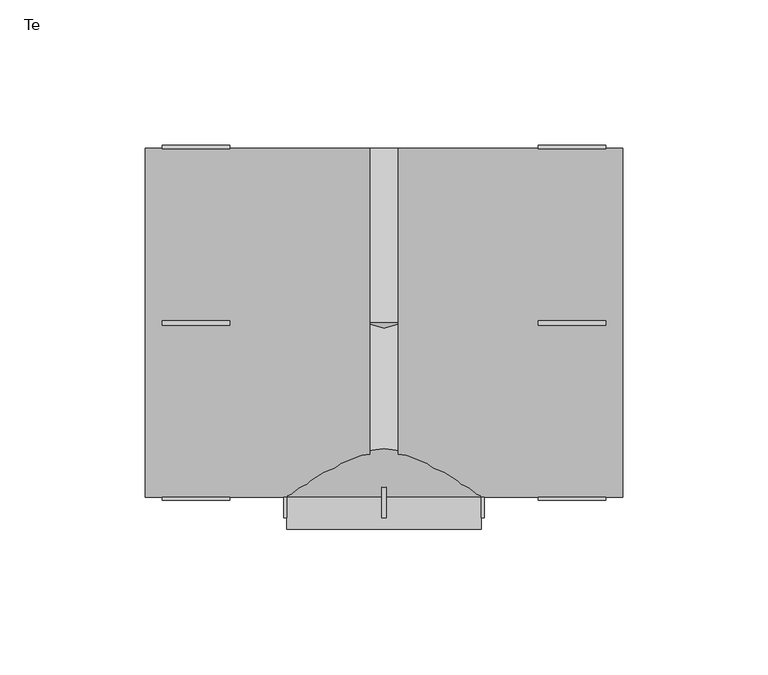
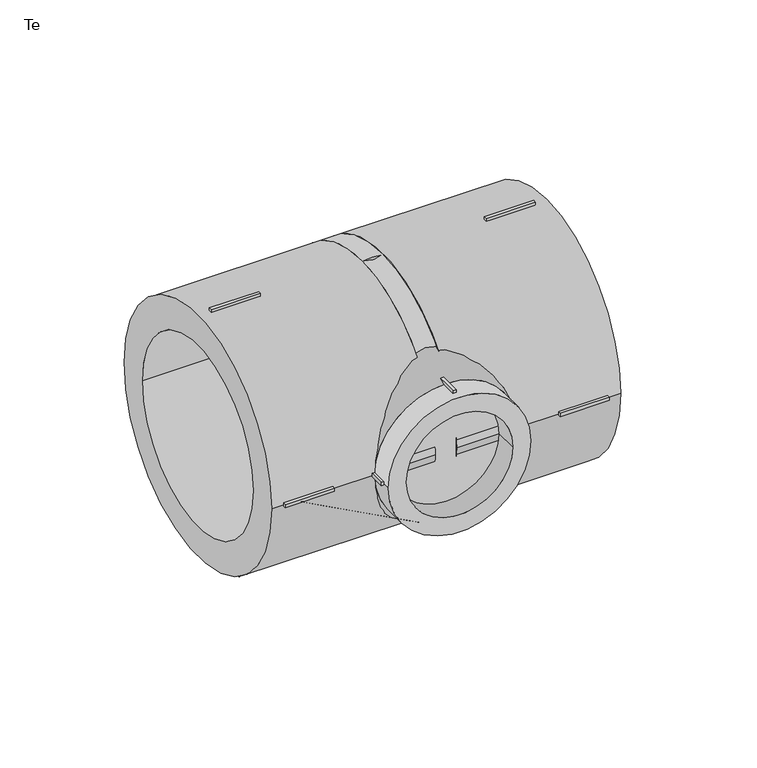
"""IFC4 building model written with IfcOpenShell, lengths in millimetres: pipe fitting geometry, EGB_VASEN_ PPR_Te WXR300_Te reducida WXR310 : Te."""

from ifc_helpers import new_model, si_unit, point, frame, origin, origin_2d, place, context, project, spatial, polyline, circle_curve, trimmed, segment, composite_curve, outline, extrude, source, transform, mapped, element, save
from ifc_brep_helpers import plane_surface, revolved_surface, advanced_brep


def te_9bad3824(model_context):
    return source(origin(), model_context, "Body", "SolidModel", [
        extrude(outline(polyline([(-0.75, -51.0), (0.75, -51.0), (0.75, -67.0), (-0.75, -67.0), (-0.75, -51.0)])), frame((0.0, 0.0, 32.5), z_axis=(0.0, 0.0, 1.0), x_axis=(1.0, 0.0, 0.0)), (0.0, 0.0, 1.0), 2.0),
        extrude(outline(polyline([(-0.75, -51.0), (0.75, -51.0), (0.75, -67.0), (-0.75, -67.0), (-0.75, -51.0)])), frame((0.0, 0.0, -34.5), z_axis=(0.0, 0.0, 1.0), x_axis=(1.0, 0.0, 0.0)), (0.0, 0.0, 1.0), 2.0),
        extrude(outline(polyline([(32.5, -51.0), (34.5, -51.0), (34.5, -67.0), (32.5, -67.0), (32.5, -51.0)])), frame((0.0, 0.0, -0.75), z_axis=(0.0, 0.0, 1.0), x_axis=(1.0, 0.0, 0.0)), (0.0, 0.0, 1.0), 1.5),
        extrude(outline(polyline([(-34.5, -51.0), (-32.5, -51.0), (-32.5, -67.0), (-34.5, -67.0), (-34.5, -51.0)])), frame((0.0, 0.0, -0.75), z_axis=(0.0, 0.0, 1.0), x_axis=(1.0, 0.0, 0.0)), (0.0, 0.0, 1.0), 1.5),
        extrude(outline(polyline([(53.0, -0.75), (53.0, 0.75), (76.2, 0.75), (76.2, -0.75), (53.0, -0.75)])), frame((0.0, 0.0, 59.0), z_axis=(0.0, 0.0, 1.0), x_axis=(1.0, 0.0, 0.0)), (0.0, 0.0, 1.0), 2.0),
        extrude(outline(polyline([(53.0, -0.75), (53.0, 0.75), (76.2, 0.75), (76.2, -0.75), (53.0, -0.75)])), frame((0.0, 0.0, -61.0), z_axis=(0.0, 0.0, 1.0), x_axis=(1.0, 0.0, 0.0)), (0.0, 0.0, 1.0), 2.0),
        extrude(outline(polyline([(53.0, 59.0), (53.0, 61.0), (76.2, 61.0), (76.2, 59.0), (53.0, 59.0)])), frame((0.0, 0.0, -0.75), z_axis=(0.0, 0.0, 1.0), x_axis=(1.0, 0.0, 0.0)), (0.0, 0.0, 1.0), 1.5),
        extrude(outline(polyline([(53.0, -61.0), (53.0, -59.0), (76.2, -59.0), (76.2, -61.0), (53.0, -61.0)])), frame((0.0, 0.0, -0.75), z_axis=(0.0, 0.0, 1.0), x_axis=(1.0, 0.0, 0.0)), (0.0, 0.0, 1.0), 1.5),
        extrude(outline(polyline([(-53.0, 0.75), (-53.0, -0.75), (-76.2, -0.75), (-76.2, 0.75), (-53.0, 0.75)])), frame((0.0, 0.0, 59.0), z_axis=(0.0, 0.0, 1.0), x_axis=(1.0, 0.0, 0.0)), (0.0, 0.0, 1.0), 2.0),
        extrude(outline(polyline([(-53.0, 0.75), (-53.0, -0.75), (-76.2, -0.75), (-76.2, 0.75), (-53.0, 0.75)])), frame((0.0, 0.0, -61.0), z_axis=(0.0, 0.0, 1.0), x_axis=(1.0, 0.0, 0.0)), (0.0, 0.0, 1.0), 2.0),
        extrude(outline(polyline([(-53.0, 61.0), (-53.0, 59.0), (-76.2, 59.0), (-76.2, 61.0), (-53.0, 61.0)])), frame((0.0, 0.0, -0.75), z_axis=(0.0, 0.0, 1.0), x_axis=(1.0, 0.0, 0.0)), (0.0, 0.0, 1.0), 1.5),
        extrude(outline(polyline([(-53.0, -59.0), (-53.0, -61.0), (-76.2, -61.0), (-76.2, -59.0), (-53.0, -59.0)])), frame((0.0, 0.0, -0.75), z_axis=(0.0, 0.0, 1.0), x_axis=(1.0, 0.0, 0.0)), (0.0, 0.0, 1.0), 1.5),
        extrude(outline(composite_curve([segment(trimmed(circle_curve(origin_2d(), 33.5), [point((0.0, 33.5))], [point((0.0, -33.5))], False, "CARTESIAN"), True, "CONTINUOUS"), segment(trimmed(circle_curve(origin_2d(), 33.5), [point((0.0, -33.5))], [point((0.0, 33.5))], False, "CARTESIAN"), True, "CONTINUOUS")], self_intersect=False), holes=[composite_curve([segment(trimmed(circle_curve(origin_2d(), 25.0), [point((0.0, 25.0))], [point((0.0, -25.0))], True, "CARTESIAN"), True, "CONTINUOUS"), segment(trimmed(circle_curve(origin_2d(), 25.0), [point((0.0, -25.0))], [point((0.0, 25.0))], True, "CARTESIAN"), True, "CONTINUOUS")], self_intersect=False)]), frame((0.0, -71.0, 0.0), z_axis=(0.0, 1.0, 0.0), x_axis=(0.0, 0.0, 1.0)), (0.0, 0.0, 1.0), 11.0),
        extrude(outline(composite_curve([segment(trimmed(circle_curve(origin_2d(), 60.0), [point((-60.0, 0.0))], [point((60.0, 0.0))], False, "CARTESIAN"), True, "CONTINUOUS"), segment(trimmed(circle_curve(origin_2d(), 60.0), [point((60.0, 0.0))], [point((-60.0, 0.0))], False, "CARTESIAN"), True, "CONTINUOUS")], self_intersect=False), holes=[composite_curve([segment(trimmed(circle_curve(origin_2d(), 45.0), [point((-45.0, 0.0))], [point((45.0, 0.0))], True, "CARTESIAN"), True, "CONTINUOUS"), segment(trimmed(circle_curve(origin_2d(), 45.0), [point((45.0, 0.0))], [point((-45.0, 0.0))], True, "CARTESIAN"), True, "CONTINUOUS")], self_intersect=False)]), frame((4.96, 0.0, 0.0), z_axis=(1.0, 0.0, 0.0), x_axis=(0.0, 1.0, 0.0)), (0.0, 0.0, 1.0), 77.04),
        extrude(outline(composite_curve([segment(trimmed(circle_curve(origin_2d(), 60.0), [point((-60.0, 0.0))], [point((60.0, 0.0))], False, "CARTESIAN"), True, "CONTINUOUS"), segment(trimmed(circle_curve(origin_2d(), 60.0), [point((60.0, 0.0))], [point((-60.0, 0.0))], False, "CARTESIAN"), True, "CONTINUOUS")], self_intersect=False), holes=[composite_curve([segment(trimmed(circle_curve(origin_2d(), 45.0), [point((-45.0, 0.0))], [point((45.0, 0.0))], True, "CARTESIAN"), True, "CONTINUOUS"), segment(trimmed(circle_curve(origin_2d(), 45.0), [point((45.0, 0.0))], [point((-45.0, 0.0))], True, "CARTESIAN"), True, "CONTINUOUS")], self_intersect=False)]), frame((-82.0, 0.0, 0.0), z_axis=(1.0, 0.0, 0.0), x_axis=(0.0, 1.0, 0.0)), (0.0, 0.0, 1.0), 77.04),
        advanced_brep(
        [(60.0, 0.0, 0.0), (-60.0, 0.0, 0.0), (33.5, -60.0, 0.0), (-33.5, -60.0, 0.0)],
        [
            (0, 1, circle_curve(frame((0.0, 0.0, 0.0), z_axis=(0.0, 1.0, 0.0), x_axis=(1.0, 0.0, 0.0)), 60.0)),
            (1, 0, circle_curve(frame((0.0, 0.0, 0.0), z_axis=(0.0, 1.0, 0.0), x_axis=(-1.0, 0.0, 0.0)), 60.0)),
            (2, 3, circle_curve(frame((0.0, -60.0, 0.0), z_axis=(0.0, -1.0, 0.0), x_axis=(-1.0, 0.0, 0.0)), 33.5)),
            (3, 2, circle_curve(frame((0.0, -60.0, 0.0), z_axis=(0.0, -1.0, 0.0), x_axis=(1.0, 0.0, 0.0)), 33.5)),
            (3, 1),
            (0, 2),
        ],
        [
            plane_surface(frame((0.0, 0.0, 0.0), z_axis=(0.0, 1.0, 0.0), x_axis=(0.0, 0.0, -1.0))),
            plane_surface(frame((0.0, -60.0, 0.0), z_axis=(0.0, -1.0, 0.0), x_axis=(0.0, 0.0, -1.0))),
            revolved_surface(polyline([(-33.49999999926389, -60.0, 0.0), (-60.0, 0.0, 0.0)]), (0.0, -135.8490566, 0.0), (0.0, 1.0, 0.0)),
            revolved_surface(polyline([(33.49999999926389, -60.0, 0.0), (60.0, 0.0, 0.0)]), (0.0, -135.8490566, 0.0), (0.0, 1.0, 0.0)),
        ],
        [
            (0, [[1, 2]]),
            (1, [[3, 4]]),
            (2, [[-4, 5, -1, 6]]),
            (3, [[-3, -6, -2, -5]]),
        ],
    ),
        extrude(outline(composite_curve([segment(trimmed(circle_curve(origin_2d(), 60.0), [point((-60.0, 0.0))], [point((60.0, 0.0))], False, "CARTESIAN"), True, "CONTINUOUS"), segment(trimmed(circle_curve(origin_2d(), 60.0), [point((60.0, 0.0))], [point((-60.0, 0.0))], False, "CARTESIAN"), True, "CONTINUOUS")], self_intersect=False)), frame((-4.96, 0.0, 0.0), z_axis=(1.0, 0.0, 0.0), x_axis=(0.0, 1.0, 0.0)), (0.0, 0.0, 1.0), 9.92),
    ])


if __name__ == "__main__":
    model = new_model("IFC4")
    model_context = context("Model", 3, world=origin())
    ifc_project = project(units=[si_unit("LENGTHUNIT", "METRE", prefix="MILLI")], contexts=[model_context])
    site = spatial("IfcSite", under=ifc_project)
    building = spatial("IfcBuilding", under=site)
    placement = place(None, origin())
    te_shape = te_9bad3824(model_context)
    element("IfcPipeFitting", 1, ObjectType="EGB_VASEN_ PPR_Te WXR300_Te reducida WXR310 : Te", at=placement, inside=building, context=model_context, shape_type="MappedRepresentation", body=[
        mapped(te_shape, transform((0.0, 0.0, 0.0), x_axis=(1.0, 0.0, 0.0), y_axis=(0.0, 1.0, 0.0), z_axis=(0.0, 0.0, 1.0))),
    ])
    save(model, "model.ifc")
